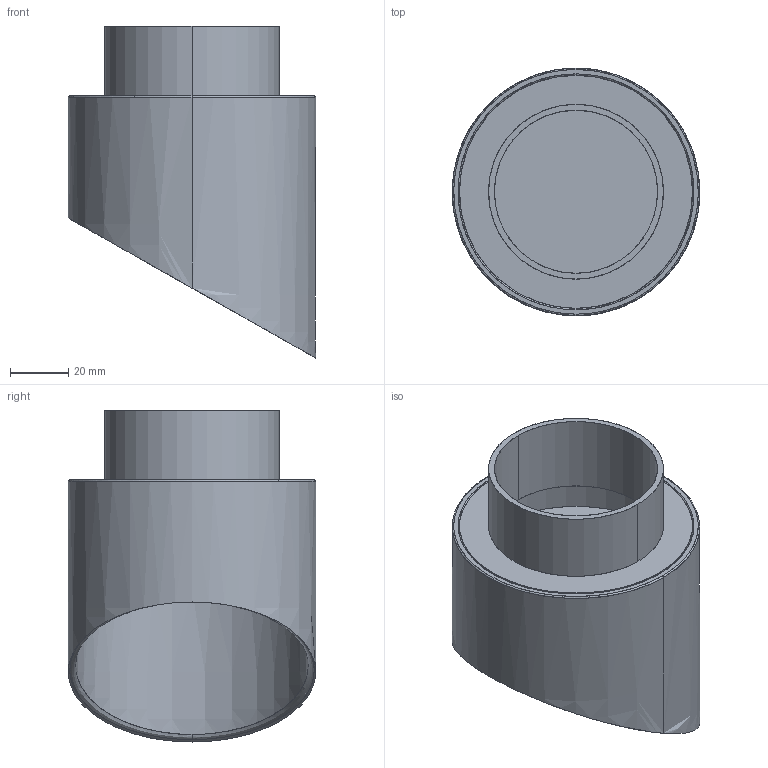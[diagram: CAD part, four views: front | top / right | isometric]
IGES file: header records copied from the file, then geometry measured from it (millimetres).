
Start section: SolidWorks IGES file using analytic representation for surfaces
Global section: file name: C:\Users\anna.bielnik\Desktop\modele 3D tymczasowe\hvar\z³o¿enie HVAR.IGS; native system: SolidWorks 2023; preprocessor: SolidWorks 2023; author: anna.bielnik; date: 230710.112848; units: millimetre
Bounding box: 85 x 85 x 114 mm (x, y, z)
Surface area: 64283.9 mm2 (no closed solid volume)
Topology: 0 solids, 0 shells, 33 faces, 1184 edges, 1184 vertices
Faces by surface type: revolution 18, bspline 15
